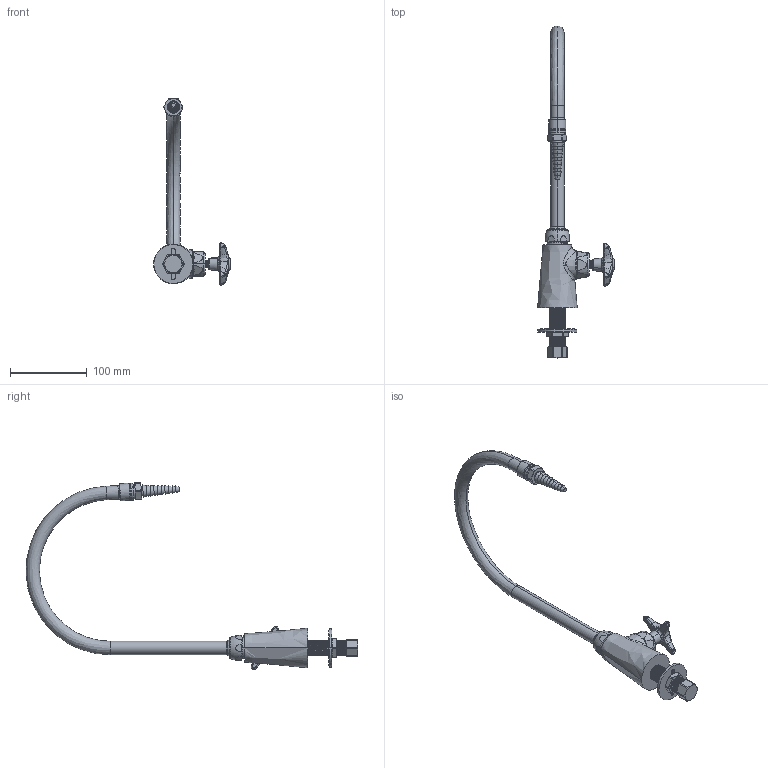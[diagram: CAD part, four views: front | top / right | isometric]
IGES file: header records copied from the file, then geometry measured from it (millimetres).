
Start section:  PTC IGES file: LWS1-C11-B.igs
Global section: file name: LWS1-C11-B.igs; native system: Creo Parametric by PTC Inc.; preprocessor: 2014500; author: usch_engrender; organization: Unknown; date: 20151203.105927; units: inch
Bounding box: 100.04 x 431.83 x 243.07 mm (x, y, z)
Volume: 251113.8 mm3; surface area: 90614.1 mm2
Topology: 1 solids, 4 shells, 480 faces, 1149 edges, 699 vertices
Faces by surface type: revolution 258, bspline 222
